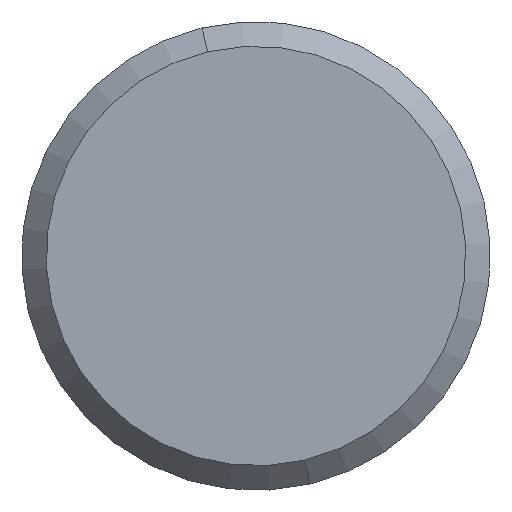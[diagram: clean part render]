
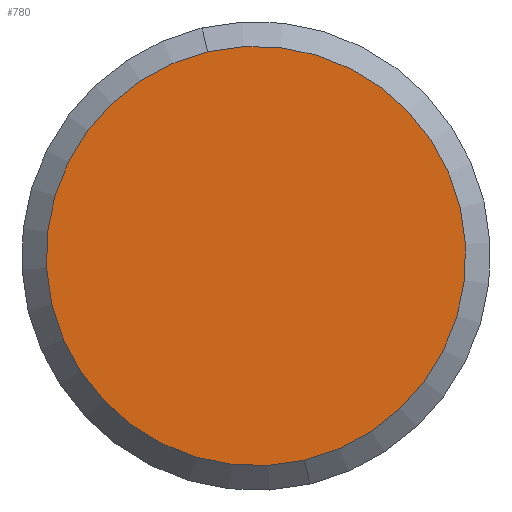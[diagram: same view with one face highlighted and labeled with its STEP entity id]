
A CAD part, front view. The second image highlights one B-rep face of the part: STEP entity #780.
In plain terms, the highlighted planar face has unit normal (0, -1, 0).
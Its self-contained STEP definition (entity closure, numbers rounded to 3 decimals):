
#1 = AXIS2_PLACEMENT_3D ( 'NONE', #1547, #1559, #1560 ) ;
#425 = CARTESIAN_POINT ( 'NONE',  ( 0., 0., 0. ) ) ;
#426 = DIRECTION ( 'NONE',  ( 0., -1., 0. ) ) ;
#427 = DIRECTION ( 'NONE',  ( 0., 0., -1. ) ) ;
#657 = EDGE_LOOP ( 'NONE', ( #1264, #1265 ) ) ;
#780 = ADVANCED_FACE ( 'NONE', ( #1555 ), #1556, .T. ) ;
#853 = EDGE_CURVE ( 'NONE', #1089, #1151, #1536, .T. ) ;
#890 = EDGE_CURVE ( 'NONE', #1151, #1089, #1477, .T. ) ;
#1089 = VERTEX_POINT ( 'NONE', #1343 ) ;
#1151 = VERTEX_POINT ( 'NONE', #2036 ) ;
#1264 = ORIENTED_EDGE ( 'NONE', *, *, #853, .T. ) ;
#1265 = ORIENTED_EDGE ( 'NONE', *, *, #890, .T. ) ;
#1343 = CARTESIAN_POINT ( 'NONE',  ( 0., 0., 8.525 ) ) ;
#1477 = CIRCLE ( 'NONE', #1482, 8.525 ) ;
#1482 = AXIS2_PLACEMENT_3D ( 'NONE', #2022, #2023, #2024 ) ;
#1536 = CIRCLE ( 'NONE', #1537, 8.525 ) ;
#1537 = AXIS2_PLACEMENT_3D ( 'NONE', #425, #426, #427 ) ;
#1547 = CARTESIAN_POINT ( 'NONE',  ( -9.525, 0., 0. ) ) ;
#1555 = FACE_OUTER_BOUND ( 'NONE', #657, .T. ) ;
#1556 = PLANE ( 'NONE',  #1 ) ;
#1559 = DIRECTION ( 'NONE',  ( 0., -1., 0. ) ) ;
#1560 = DIRECTION ( 'NONE',  ( 0., 0., -1. ) ) ;
#2022 = CARTESIAN_POINT ( 'NONE',  ( 0., 0., 0. ) ) ;
#2023 = DIRECTION ( 'NONE',  ( 0., -1., 0. ) ) ;
#2024 = DIRECTION ( 'NONE',  ( 0., 0., -1. ) ) ;
#2036 = CARTESIAN_POINT ( 'NONE',  ( 0., 0., -8.525 ) ) ;
